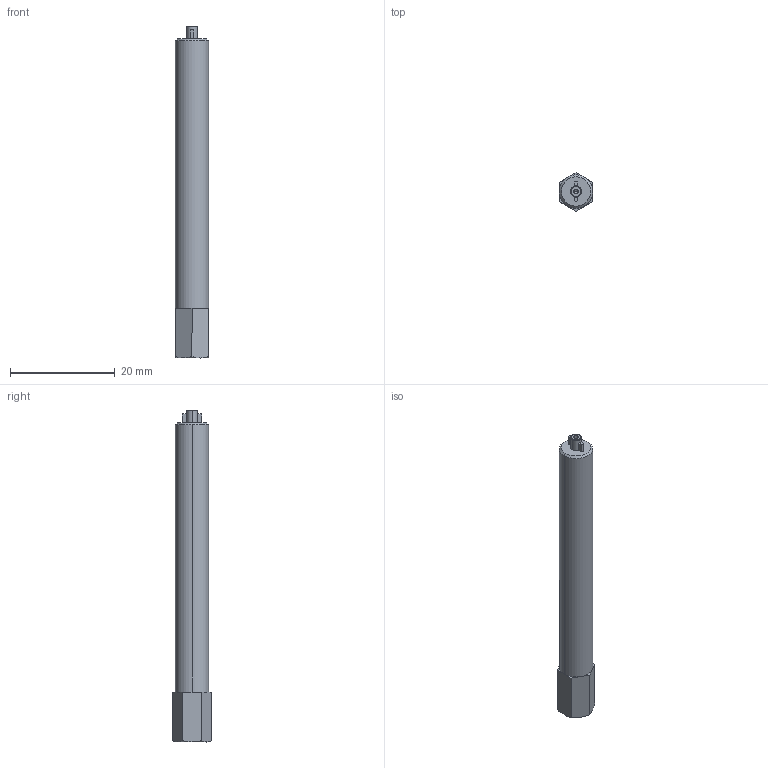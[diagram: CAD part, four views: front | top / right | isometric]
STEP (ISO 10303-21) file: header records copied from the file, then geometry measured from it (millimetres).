
FILE_DESCRIPTION (( 'STEP AP214' ), '1' );
FILE_NAME ('500-32-008.STEP', '2018-11-30T13:13:38', ( '' ), ( '' ), 'SwSTEP 2.0', 'SolidWorks 2016', '' );
FILE_SCHEMA (( 'AUTOMOTIVE_DESIGN' ));
Length unit declared in the file: inch
Products named in the file (1): 500-32-008
Bounding box: 6.35 x 7.33 x 63.27 mm (x, y, z)
Volume: 1965.2 mm3; surface area: 1328.1 mm2
Topology: 1 solids, 2 shells, 49 faces, 106 edges, 63 vertices
Faces by surface type: plane 23, cone 14, cylinder 12
Entity records: 2002 total; most frequent: CARTESIAN_POINT 269, DIRECTION 234, ORIENTED_EDGE 208, EDGE_CURVE 104, AXIS2_PLACEMENT_3D 92, VERTEX_POINT 63, EDGE_LOOP 55, DIMENSIONAL_EXPONENTS 51
